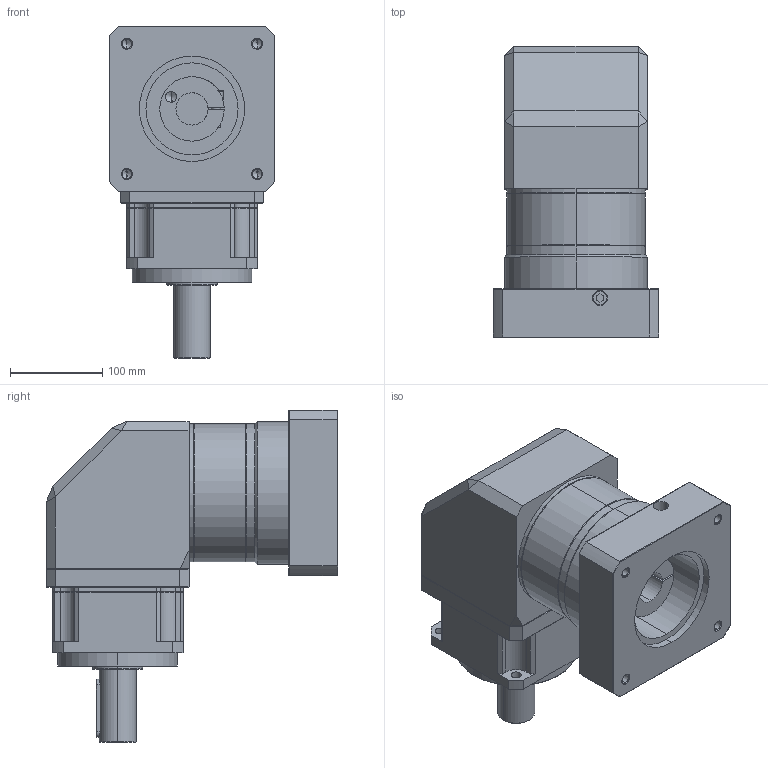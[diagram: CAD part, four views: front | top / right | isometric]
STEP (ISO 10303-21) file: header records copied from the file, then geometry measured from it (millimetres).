
FILE_DESCRIPTION (( 'STEP AP214' ), '1' );
FILE_NAME ('GBR142.STEP', '2019-05-16T12:18:33', ( '个人用户' ), ( '微软中国' ), 'SwSTEP 2.0', 'SolidWorks 2017', '' );
FILE_SCHEMA (( 'AUTOMOTIVE_DESIGN' ));
Length unit declared in the file: millimetre
Products named in the file (1): GBR142
Bounding box: 180 x 316.5 x 360.5 mm (x, y, z)
Volume: 8402100.5 mm3; surface area: 382142.8 mm2
Topology: 1 solids, 1 shells, 321 faces, 729 edges, 418 vertices
Faces by surface type: plane 150, cylinder 90, cone 71, torus 10
Entity records: 9165 total; most frequent: CARTESIAN_POINT 1854, DIRECTION 1547, ORIENTED_EDGE 1434, EDGE_CURVE 717, AXIS2_PLACEMENT_3D 565, VERTEX_POINT 418, LINE 417, VECTOR 417
